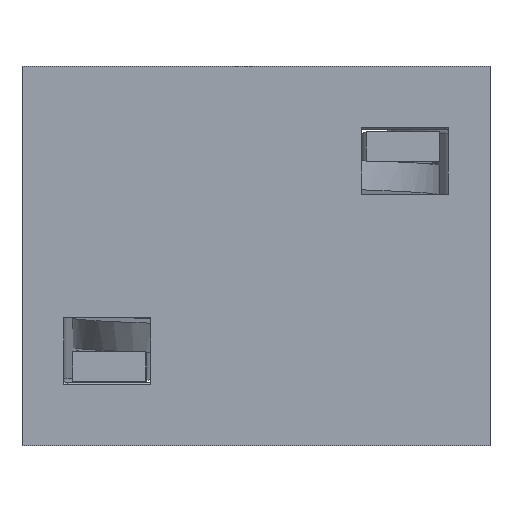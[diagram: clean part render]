
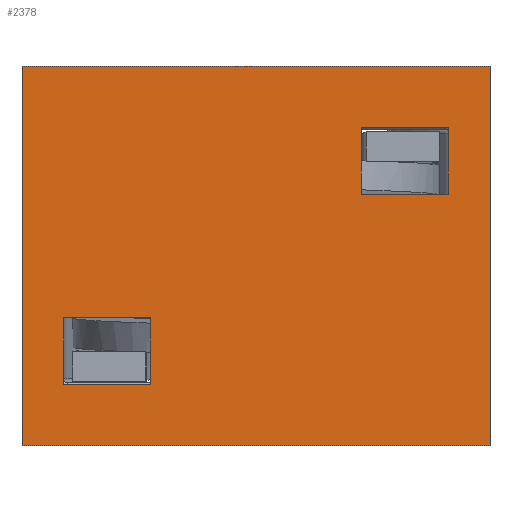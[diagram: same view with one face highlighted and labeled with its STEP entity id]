
A CAD part, front view. The second image highlights one B-rep face of the part: STEP entity #2378.
In plain terms, the highlighted planar face has unit normal (0, -1, 0).
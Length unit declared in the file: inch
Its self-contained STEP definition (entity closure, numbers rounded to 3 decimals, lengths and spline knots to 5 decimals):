
#15 = CARTESIAN_POINT ( 'NONE',  ( 0., 0., 0. ) ) ;
#30 = VECTOR ( 'NONE', #133, 39.37008 ) ;
#50 = DIRECTION ( 'NONE',  ( 0., -1., 0. ) ) ;
#133 = DIRECTION ( 'NONE',  ( 0., 0., 1. ) ) ;
#299 = ORIENTED_EDGE ( 'NONE', *, *, #2422, .T. ) ;
#334 = ORIENTED_EDGE ( 'NONE', *, *, #4158, .T. ) ;
#401 = CARTESIAN_POINT ( 'NONE',  ( 0.08917, 0., -0.54083 ) ) ;
#421 = ORIENTED_EDGE ( 'NONE', *, *, #3830, .F. ) ;
#449 = VECTOR ( 'NONE', #3854, 39.37008 ) ;
#466 = LINE ( 'NONE', #1753, #4371 ) ;
#652 = ORIENTED_EDGE ( 'NONE', *, *, #2499, .T. ) ;
#655 = VECTOR ( 'NONE', #2515, 39.37008 ) ;
#719 = ORIENTED_EDGE ( 'NONE', *, *, #3846, .T. ) ;
#808 = EDGE_CURVE ( 'NONE', #1844, #2580, #4676, .T. ) ;
#875 = FACE_OUTER_BOUND ( 'NONE', #1922, .T. ) ;
#1045 = EDGE_CURVE ( 'NONE', #2103, #1844, #3051, .T. ) ;
#1117 = CARTESIAN_POINT ( 'NONE',  ( 0.08917, 0., -0.68354 ) ) ;
#1300 = VERTEX_POINT ( 'NONE', #4328 ) ;
#1420 = EDGE_LOOP ( 'NONE', ( #3888, #719, #4835, #4398 ) ) ;
#1451 = LINE ( 'NONE', #2335, #449 ) ;
#1461 = VERTEX_POINT ( 'NONE', #1117 ) ;
#1462 = EDGE_CURVE ( 'NONE', #1876, #2277, #466, .T. ) ;
#1510 = CARTESIAN_POINT ( 'NONE',  ( 0.08917, 0., -0.54083 ) ) ;
#1543 = CARTESIAN_POINT ( 'NONE',  ( 0.91583, 0., -0.13248 ) ) ;
#1545 = VECTOR ( 'NONE', #4176, 39.37008 ) ;
#1566 = LINE ( 'NONE', #3043, #3330 ) ;
#1627 = CARTESIAN_POINT ( 'NONE',  ( 0.91583, 0., -0.2752 ) ) ;
#1753 = CARTESIAN_POINT ( 'NONE',  ( 0., 0., -0.81602 ) ) ;
#1782 = LINE ( 'NONE', #1510, #2788 ) ;
#1806 = AXIS2_PLACEMENT_3D ( 'NONE', #2316, #50, #2699 ) ;
#1844 = VERTEX_POINT ( 'NONE', #4326 ) ;
#1870 = FACE_BOUND ( 'NONE', #1420, .T. ) ;
#1872 = DIRECTION ( 'NONE',  ( -1., 0., 0. ) ) ;
#1876 = VERTEX_POINT ( 'NONE', #2143 ) ;
#1877 = DIRECTION ( 'NONE',  ( -1., 0., 0. ) ) ;
#1894 = CARTESIAN_POINT ( 'NONE',  ( 0., 0., -0.81602 ) ) ;
#1922 = EDGE_LOOP ( 'NONE', ( #421, #4148, #4325, #4632 ) ) ;
#2003 = CARTESIAN_POINT ( 'NONE',  ( 1.005, 0., 0. ) ) ;
#2096 = VECTOR ( 'NONE', #3848, 39.37008 ) ;
#2103 = VERTEX_POINT ( 'NONE', #2615 ) ;
#2116 = DIRECTION ( 'NONE',  ( 0., 0., -1. ) ) ;
#2143 = CARTESIAN_POINT ( 'NONE',  ( 1.005, 0., -0.81602 ) ) ;
#2185 = ORIENTED_EDGE ( 'NONE', *, *, #4807, .T. ) ;
#2254 = CARTESIAN_POINT ( 'NONE',  ( 0.08917, 0., -0.68354 ) ) ;
#2258 = VECTOR ( 'NONE', #4186, 39.37008 ) ;
#2277 = VERTEX_POINT ( 'NONE', #1894 ) ;
#2302 = CARTESIAN_POINT ( 'NONE',  ( 0.91583, 0., -0.2752 ) ) ;
#2304 = CARTESIAN_POINT ( 'NONE',  ( 0.27618, 0., -0.54083 ) ) ;
#2316 = CARTESIAN_POINT ( 'NONE',  ( 0., 0., 0. ) ) ;
#2335 = CARTESIAN_POINT ( 'NONE',  ( 0., 0., 0. ) ) ;
#2378 = ADVANCED_FACE ( 'NONE', ( #875, #2884, #1870 ), #2679, .T. ) ;
#2386 = LINE ( 'NONE', #2302, #2258 ) ;
#2422 = EDGE_CURVE ( 'NONE', #1461, #3230, #1782, .T. ) ;
#2499 = EDGE_CURVE ( 'NONE', #3230, #3777, #2553, .T. ) ;
#2515 = DIRECTION ( 'NONE',  ( 1., 0., 0. ) ) ;
#2553 = LINE ( 'NONE', #401, #1545 ) ;
#2580 = VERTEX_POINT ( 'NONE', #1543 ) ;
#2615 = CARTESIAN_POINT ( 'NONE',  ( 0.72882, 0., -0.2752 ) ) ;
#2625 = EDGE_CURVE ( 'NONE', #3716, #3030, #1451, .T. ) ;
#2679 = PLANE ( 'NONE',  #1806 ) ;
#2684 = DIRECTION ( 'NONE',  ( 0., 0., 1. ) ) ;
#2699 = DIRECTION ( 'NONE',  ( 0., 0., -1. ) ) ;
#2788 = VECTOR ( 'NONE', #4536, 39.37008 ) ;
#2884 = FACE_BOUND ( 'NONE', #4553, .T. ) ;
#3030 = VERTEX_POINT ( 'NONE', #2003 ) ;
#3043 = CARTESIAN_POINT ( 'NONE',  ( 0.91583, 0., -0.2752 ) ) ;
#3051 = LINE ( 'NONE', #4342, #30 ) ;
#3092 = LINE ( 'NONE', #2304, #2096 ) ;
#3230 = VERTEX_POINT ( 'NONE', #4336 ) ;
#3330 = VECTOR ( 'NONE', #3442, 39.37008 ) ;
#3381 = CARTESIAN_POINT ( 'NONE',  ( 0., 0., 0. ) ) ;
#3442 = DIRECTION ( 'NONE',  ( -1., 0., 0. ) ) ;
#3534 = LINE ( 'NONE', #15, #4288 ) ;
#3716 = VERTEX_POINT ( 'NONE', #3381 ) ;
#3777 = VERTEX_POINT ( 'NONE', #4913 ) ;
#3830 = EDGE_CURVE ( 'NONE', #2277, #3716, #3534, .T. ) ;
#3846 = EDGE_CURVE ( 'NONE', #2580, #4282, #2386, .T. ) ;
#3848 = DIRECTION ( 'NONE',  ( 0., 0., -1. ) ) ;
#3854 = DIRECTION ( 'NONE',  ( 1., 0., 0. ) ) ;
#3859 = VECTOR ( 'NONE', #2116, 39.37008 ) ;
#3888 = ORIENTED_EDGE ( 'NONE', *, *, #808, .T. ) ;
#4055 = EDGE_CURVE ( 'NONE', #4282, #2103, #1566, .T. ) ;
#4148 = ORIENTED_EDGE ( 'NONE', *, *, #1462, .F. ) ;
#4158 = EDGE_CURVE ( 'NONE', #3777, #1300, #3092, .T. ) ;
#4176 = DIRECTION ( 'NONE',  ( 1., 0., 0. ) ) ;
#4186 = DIRECTION ( 'NONE',  ( 0., 0., -1. ) ) ;
#4203 = CARTESIAN_POINT ( 'NONE',  ( 0.91583, 0., -0.13248 ) ) ;
#4282 = VERTEX_POINT ( 'NONE', #1627 ) ;
#4288 = VECTOR ( 'NONE', #2684, 39.37008 ) ;
#4325 = ORIENTED_EDGE ( 'NONE', *, *, #4503, .F. ) ;
#4326 = CARTESIAN_POINT ( 'NONE',  ( 0.72882, 0., -0.13248 ) ) ;
#4328 = CARTESIAN_POINT ( 'NONE',  ( 0.27618, 0., -0.68354 ) ) ;
#4336 = CARTESIAN_POINT ( 'NONE',  ( 0.08917, 0., -0.54083 ) ) ;
#4342 = CARTESIAN_POINT ( 'NONE',  ( 0.72882, 0., -0.2752 ) ) ;
#4371 = VECTOR ( 'NONE', #1877, 39.37008 ) ;
#4389 = CARTESIAN_POINT ( 'NONE',  ( 1.005, 0., 0. ) ) ;
#4398 = ORIENTED_EDGE ( 'NONE', *, *, #1045, .T. ) ;
#4503 = EDGE_CURVE ( 'NONE', #3030, #1876, #4868, .T. ) ;
#4536 = DIRECTION ( 'NONE',  ( 0., 0., 1. ) ) ;
#4553 = EDGE_LOOP ( 'NONE', ( #2185, #299, #652, #334 ) ) ;
#4591 = VECTOR ( 'NONE', #1872, 39.37008 ) ;
#4632 = ORIENTED_EDGE ( 'NONE', *, *, #2625, .F. ) ;
#4676 = LINE ( 'NONE', #4203, #655 ) ;
#4715 = LINE ( 'NONE', #2254, #4591 ) ;
#4807 = EDGE_CURVE ( 'NONE', #1300, #1461, #4715, .T. ) ;
#4835 = ORIENTED_EDGE ( 'NONE', *, *, #4055, .T. ) ;
#4868 = LINE ( 'NONE', #4389, #3859 ) ;
#4913 = CARTESIAN_POINT ( 'NONE',  ( 0.27618, 0., -0.54083 ) ) ;
